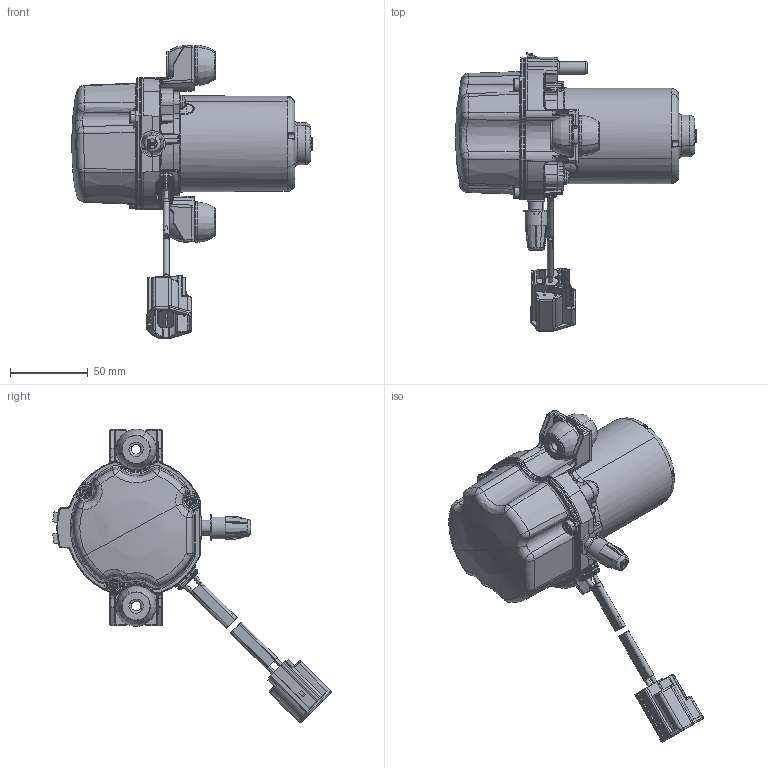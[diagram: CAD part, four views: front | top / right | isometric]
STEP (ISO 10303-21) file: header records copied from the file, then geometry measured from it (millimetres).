
FILE_DESCRIPTION(('CATIA V5 STEP Exchange','CAx-IF Rec.Pracs.--- Model Styling and Organization---1.5--- 2016-08-15','CAx-IF Rec.Pracs.---Supplemental Geometry---1.0---2011-11-01','CAx-IF Rec.Pracs.--- Composite Materials ---1.1---2010-07-15'),'2;1');
FILE_NAME('E:\tmp\ddx\2011226\HELLA_3D_data_Vacuum_pumps_and_pressure_sensor_UP_5-0_8TG-012-377-70.stp','2022-01-18T07:36:15+00:00',('none'),('none'),'CATIA Version 5-6 Release 2020 SP3 HF9','CATIA V5 STEP AP214 Edition 3 v2','none');
FILE_SCHEMA(('AUTOMOTIVE_DESIGN { 1 0 10303 214 3 1 1 1 }'));
Length unit declared in the file: millimetre
Products named in the file (1): 10002229828_D10_001
Bounding box: 155.2 x 179.27 x 189.14 mm (x, y, z)
Volume: 612457.7 mm3; surface area: 87315.5 mm2
Topology: 8 solids, 8 shells, 2925 faces, 7427 edges, 4354 vertices
Faces by surface type: bspline 766, plane 671, cylinder 562, torus 441, cone 226, sphere 168, extrusion 75, revolution 16
Entity records: 119909 total; most frequent: CARTESIAN_POINT 62450, ORIENTED_EDGE 14456, DIRECTION 7537, EDGE_CURVE 7228, VERTEX_POINT 4348, AXIS2_PLACEMENT_3D 3511, B_SPLINE_CURVE_WITH_KNOTS 3025, EDGE_LOOP 3010
